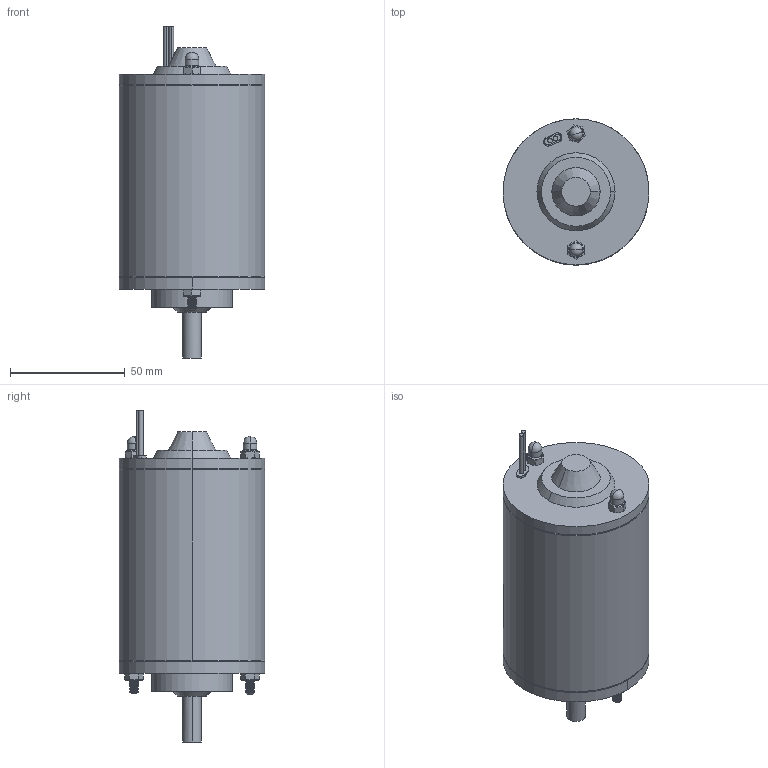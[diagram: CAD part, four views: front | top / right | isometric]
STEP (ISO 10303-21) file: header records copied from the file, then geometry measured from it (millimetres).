
FILE_DESCRIPTION (( 'STEP AP214' ), '1' );
FILE_NAME ('05.M5844.STEP', '2017-06-11T12:57:02', ( 'Sky123.Org' ), ( 'Sky123.Org' ), 'SwSTEP 2.0', 'SolidWorks 2015', '' );
FILE_SCHEMA (( 'AUTOMOTIVE_DESIGN' ));
Length unit declared in the file: millimetre
Products named in the file (5): domed cap nut_ks_KS 1026 DC - M4-Type1-N; socket set screw flat point_am_B18.3.6M - M4 x 0.7 x 6 Hex Socket Flat Pt. SS --S; hexagon nut style 1 gradeab_ks_KS 1012 S1 - M4-W-N; M5844; 05.M5844
Assembly tree (7 placements, depth 2):
  05.M5844
    M5844
    hexagon nut style 1 gradeab_ks_KS 1012 S1 - M4-W-N  x2
    socket set screw flat point_am_B18.3.6M - M4 x 0.7 x 6 Hex Socket Flat Pt. SS --S  x2
    domed cap nut_ks_KS 1026 DC - M4-Type1-N  x2
Bounding box: 63.5 x 63.5 x 144.5 mm (x, y, z)
Volume: 87864.4 mm3; surface area: 49919.7 mm2
Topology: 8 solids, 8 shells, 302 faces, 726 edges, 449 vertices
Faces by surface type: cone 122, cylinder 84, plane 84, bspline 4, torus 4, sphere 4
Entity records: 5983 total; most frequent: CARTESIAN_POINT 1132, DIRECTION 993, ORIENTED_EDGE 860, EDGE_CURVE 430, AXIS2_PLACEMENT_3D 408, VERTEX_POINT 271, CIRCLE 218, EDGE_LOOP 207
